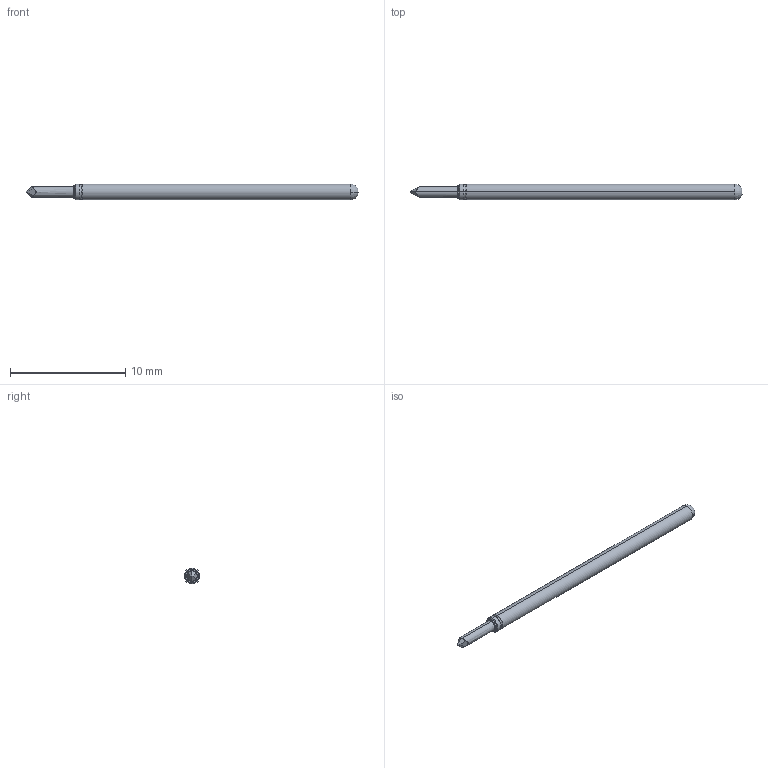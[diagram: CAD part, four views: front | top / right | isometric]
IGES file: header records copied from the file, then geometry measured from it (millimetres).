
Start section: SolidWorks IGES file using analytic representation for surfaces
Global section: file name: Z:\probe solid model mockups\Solidworks models\POGO-25 IGS files\POGO-25I8 RECD.IGS; native system: SolidWorks 2006 by SolidWorks Corporation; preprocessor: SolidWorks 2006 by SolidWorks Corporation; author: tsakatani; date: 071214.092538; units: inch
Bounding box: 28.78 x 1.37 x 1.37 mm (x, y, z)
Surface area: 118.4 mm2 (no closed solid volume)
Topology: 0 solids, 0 shells, 24 faces, 170 edges, 170 vertices
Faces by surface type: bspline 12, revolution 12
